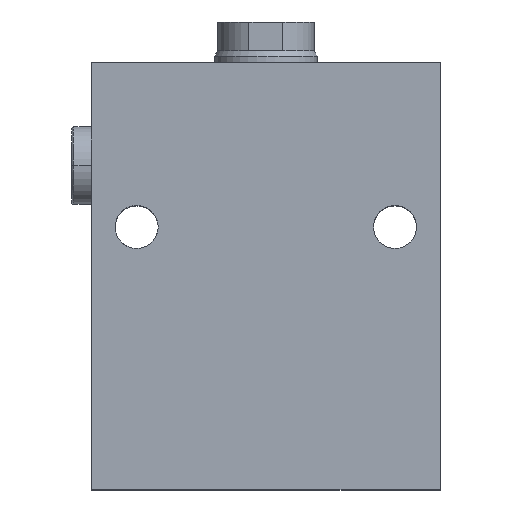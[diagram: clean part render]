
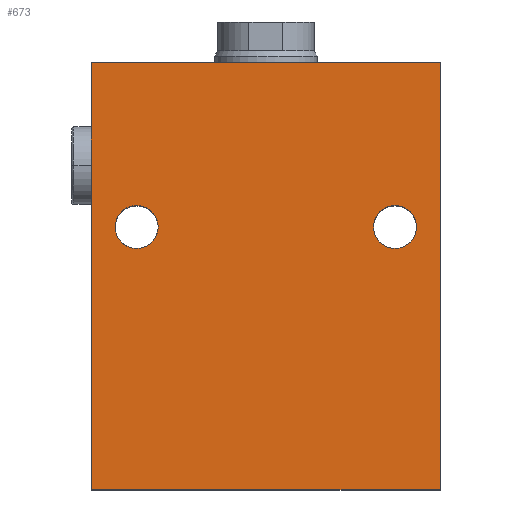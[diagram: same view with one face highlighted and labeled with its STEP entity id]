
A CAD part, top view. The second image highlights one B-rep face of the part: STEP entity #673.
In plain terms, the highlighted planar face has unit normal (0, 0, 1).
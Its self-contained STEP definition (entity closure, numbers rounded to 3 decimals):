
#15 = CARTESIAN_POINT ( 'NONE',  ( -36.75, 64., 31.5 ) ) ;
#37 = DIRECTION ( 'NONE',  ( 1., 0., 0. ) ) ;
#44 = DIRECTION ( 'NONE',  ( 0., -1., 0. ) ) ;
#60 = PLANE ( 'NONE',  #3207 ) ;
#96 = EDGE_CURVE ( 'NONE', #2546, #1892, #3337, .T. ) ;
#220 = EDGE_LOOP ( 'NONE', ( #2572, #2387 ) ) ;
#379 = DIRECTION ( 'NONE',  ( 1., 0., 0. ) ) ;
#441 = CIRCLE ( 'NONE', #3124, 5.25 ) ;
#467 = CARTESIAN_POINT ( 'NONE',  ( -42.5, 0., 31.5 ) ) ;
#542 = VECTOR ( 'NONE', #696, 1000. ) ;
#583 = FACE_OUTER_BOUND ( 'NONE', #2083, .T. ) ;
#608 = EDGE_CURVE ( 'NONE', #4199, #1114, #2113, .T. ) ;
#673 = ADVANCED_FACE ( 'NONE', ( #3948, #1465, #583 ), #60, .F. ) ;
#696 = DIRECTION ( 'NONE',  ( 0., -1., 0. ) ) ;
#722 = EDGE_CURVE ( 'NONE', #4335, #2546, #2904, .T. ) ;
#806 = ORIENTED_EDGE ( 'NONE', *, *, #1872, .F. ) ;
#855 = ORIENTED_EDGE ( 'NONE', *, *, #1619, .F. ) ;
#902 = LINE ( 'NONE', #1999, #3026 ) ;
#927 = DIRECTION ( 'NONE',  ( 1., 0., 0. ) ) ;
#945 = ORIENTED_EDGE ( 'NONE', *, *, #608, .F. ) ;
#989 = CARTESIAN_POINT ( 'NONE',  ( 31.5, 64., 31.5 ) ) ;
#993 = CARTESIAN_POINT ( 'NONE',  ( -31.5, 64., 31.5 ) ) ;
#1114 = VERTEX_POINT ( 'NONE', #2164 ) ;
#1281 = CIRCLE ( 'NONE', #3115, 5.25 ) ;
#1305 = EDGE_CURVE ( 'NONE', #4335, #3531, #902, .T. ) ;
#1331 = EDGE_CURVE ( 'NONE', #3805, #3240, #4122, .T. ) ;
#1465 = FACE_BOUND ( 'NONE', #220, .T. ) ;
#1545 = ORIENTED_EDGE ( 'NONE', *, *, #96, .T. ) ;
#1619 = EDGE_CURVE ( 'NONE', #1114, #4199, #1281, .T. ) ;
#1667 = CARTESIAN_POINT ( 'NONE',  ( 31.5, 64., 31.5 ) ) ;
#1675 = DIRECTION ( 'NONE',  ( 0., 0., 1. ) ) ;
#1832 = AXIS2_PLACEMENT_3D ( 'NONE', #993, #3681, #379 ) ;
#1872 = EDGE_CURVE ( 'NONE', #3531, #1892, #4057, .T. ) ;
#1876 = CARTESIAN_POINT ( 'NONE',  ( 26.25, 64., 31.5 ) ) ;
#1892 = VERTEX_POINT ( 'NONE', #3439 ) ;
#1999 = CARTESIAN_POINT ( 'NONE',  ( -42.5, 104., 31.5 ) ) ;
#2069 = CARTESIAN_POINT ( 'NONE',  ( -42.5, 54., 31.5 ) ) ;
#2083 = EDGE_LOOP ( 'NONE', ( #1545, #806, #2109, #2528 ) ) ;
#2109 = ORIENTED_EDGE ( 'NONE', *, *, #1305, .F. ) ;
#2113 = CIRCLE ( 'NONE', #3951, 5.25 ) ;
#2164 = CARTESIAN_POINT ( 'NONE',  ( 36.75, 64., 31.5 ) ) ;
#2363 = CARTESIAN_POINT ( 'NONE',  ( -42.5, 54., 31.5 ) ) ;
#2387 = ORIENTED_EDGE ( 'NONE', *, *, #1331, .F. ) ;
#2408 = DIRECTION ( 'NONE',  ( 0., 0., -1. ) ) ;
#2478 = VECTOR ( 'NONE', #927, 1000. ) ;
#2528 = ORIENTED_EDGE ( 'NONE', *, *, #722, .T. ) ;
#2546 = VERTEX_POINT ( 'NONE', #467 ) ;
#2572 = ORIENTED_EDGE ( 'NONE', *, *, #4042, .F. ) ;
#2707 = CARTESIAN_POINT ( 'NONE',  ( 42.5, 54., 31.5 ) ) ;
#2727 = DIRECTION ( 'NONE',  ( -1., 0., 0. ) ) ;
#2904 = LINE ( 'NONE', #2069, #3749 ) ;
#2924 = CARTESIAN_POINT ( 'NONE',  ( -42.5, 0., 31.5 ) ) ;
#3000 = CARTESIAN_POINT ( 'NONE',  ( -42.5, 104., 31.5 ) ) ;
#3026 = VECTOR ( 'NONE', #4350, 1000. ) ;
#3085 = CARTESIAN_POINT ( 'NONE',  ( 42.5, 104., 31.5 ) ) ;
#3115 = AXIS2_PLACEMENT_3D ( 'NONE', #1667, #3687, #4036 ) ;
#3124 = AXIS2_PLACEMENT_3D ( 'NONE', #3705, #1675, #4037 ) ;
#3207 = AXIS2_PLACEMENT_3D ( 'NONE', #2363, #2408, #2727 ) ;
#3240 = VERTEX_POINT ( 'NONE', #3924 ) ;
#3337 = LINE ( 'NONE', #2924, #2478 ) ;
#3439 = CARTESIAN_POINT ( 'NONE',  ( 42.5, 0., 31.5 ) ) ;
#3531 = VERTEX_POINT ( 'NONE', #3085 ) ;
#3681 = DIRECTION ( 'NONE',  ( 0., 0., 1. ) ) ;
#3687 = DIRECTION ( 'NONE',  ( 0., 0., 1. ) ) ;
#3705 = CARTESIAN_POINT ( 'NONE',  ( -31.5, 64., 31.5 ) ) ;
#3749 = VECTOR ( 'NONE', #44, 1000. ) ;
#3805 = VERTEX_POINT ( 'NONE', #15 ) ;
#3864 = EDGE_LOOP ( 'NONE', ( #855, #945 ) ) ;
#3924 = CARTESIAN_POINT ( 'NONE',  ( -26.25, 64., 31.5 ) ) ;
#3948 = FACE_BOUND ( 'NONE', #3864, .T. ) ;
#3951 = AXIS2_PLACEMENT_3D ( 'NONE', #989, #4045, #37 ) ;
#4036 = DIRECTION ( 'NONE',  ( 1., 0., 0. ) ) ;
#4037 = DIRECTION ( 'NONE',  ( 1., 0., 0. ) ) ;
#4042 = EDGE_CURVE ( 'NONE', #3240, #3805, #441, .T. ) ;
#4045 = DIRECTION ( 'NONE',  ( 0., 0., 1. ) ) ;
#4057 = LINE ( 'NONE', #2707, #542 ) ;
#4122 = CIRCLE ( 'NONE', #1832, 5.25 ) ;
#4199 = VERTEX_POINT ( 'NONE', #1876 ) ;
#4335 = VERTEX_POINT ( 'NONE', #3000 ) ;
#4350 = DIRECTION ( 'NONE',  ( 1., 0., 0. ) ) ;
